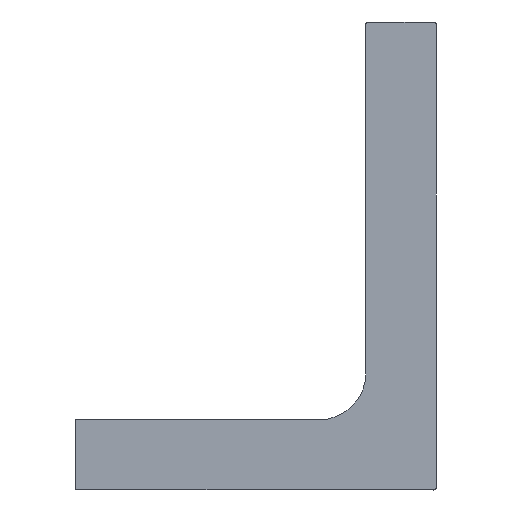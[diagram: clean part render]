
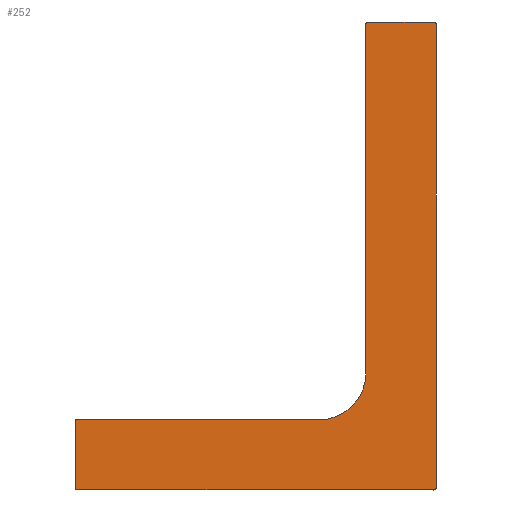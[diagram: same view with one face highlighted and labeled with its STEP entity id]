
A CAD part, left-side view. The second image highlights one B-rep face of the part: STEP entity #252.
In plain terms, the highlighted planar face has unit normal (-1, 0, 0).
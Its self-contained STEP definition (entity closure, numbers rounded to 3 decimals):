
#252=ADVANCED_FACE('Pad.1',(#534),#535,.F.);
#534=FACE_OUTER_BOUND('',#811,.T.);
#535=PLANE('',#812);
#811=EDGE_LOOP('',(#1557,#1558,#1559,#1560,#1561,#1562,#1563,#1564,#1565,#1566,#1567,#1568,#1569));
#812=AXIS2_PLACEMENT_3D('',#1570,#1571,#1572);
#1557=ORIENTED_EDGE('',*,*,#1787,.F.);
#1558=ORIENTED_EDGE('',*,*,#1807,.F.);
#1559=ORIENTED_EDGE('',*,*,#1864,.F.);
#1560=ORIENTED_EDGE('',*,*,#1861,.F.);
#1561=ORIENTED_EDGE('',*,*,#1842,.F.);
#1562=ORIENTED_EDGE('',*,*,#1631,.F.);
#1563=ORIENTED_EDGE('',*,*,#1906,.F.);
#1564=ORIENTED_EDGE('',*,*,#1766,.F.);
#1565=ORIENTED_EDGE('',*,*,#1708,.F.);
#1566=ORIENTED_EDGE('',*,*,#1837,.F.);
#1567=ORIENTED_EDGE('',*,*,#1840,.F.);
#1568=ORIENTED_EDGE('',*,*,#1908,.F.);
#1569=ORIENTED_EDGE('',*,*,#1628,.F.);
#1570=CARTESIAN_POINT('',(0.0,0.0,0.0));
#1571=DIRECTION('',(1.0,0.0,0.0));
#1572=DIRECTION('',(0.0,1.0,0.0));
#1628=EDGE_CURVE('',#1953,#1949,#1955,.T.);
#1631=EDGE_CURVE('',#1957,#1960,#1961,.T.);
#1708=EDGE_CURVE('',#2086,#2089,#2090,.T.);
#1766=EDGE_CURVE('',#2089,#2185,#2186,.T.);
#1787=EDGE_CURVE('',#2215,#1953,#2218,.T.);
#1807=EDGE_CURVE('',#2245,#2215,#2248,.F.);
#1837=EDGE_CURVE('',#2281,#2086,#2283,.T.);
#1840=EDGE_CURVE('',#2285,#2281,#2287,.T.);
#1842=EDGE_CURVE('',#1960,#2289,#2290,.T.);
#1861=EDGE_CURVE('',#2289,#2317,#2318,.T.);
#1864=EDGE_CURVE('',#2317,#2245,#2321,.T.);
#1906=EDGE_CURVE('',#2185,#1957,#2371,.T.);
#1908=EDGE_CURVE('',#1949,#2285,#2373,.T.);
#1949=VERTEX_POINT('',#2420);
#1953=VERTEX_POINT('',#2425);
#1955=CIRCLE('',#2428,0.5);
#1957=VERTEX_POINT('',#2430);
#1960=VERTEX_POINT('',#2434);
#1961=CIRCLE('',#2435,0.5);
#2086=VERTEX_POINT('',#2585);
#2089=VERTEX_POINT('',#2589);
#2090=CIRCLE('',#2590,0.5);
#2185=VERTEX_POINT('',#2704);
#2186=LINE('',#2705,#2706);
#2215=VERTEX_POINT('',#2737);
#2218=LINE('',#2741,#2742);
#2245=VERTEX_POINT('',#2770);
#2248=CIRCLE('',#2774,10.0);
#2281=VERTEX_POINT('',#2817);
#2283=CIRCLE('',#2820,0.5);
#2285=VERTEX_POINT('',#2822);
#2287=LINE('',#2825,#2826);
#2289=VERTEX_POINT('',#2828);
#2290=LINE('',#2829,#2830);
#2317=VERTEX_POINT('',#2858);
#2318=LINE('',#2859,#2860);
#2321=LINE('',#2864,#2865);
#2371=CIRCLE('',#2923,0.5);
#2373=CIRCLE('',#2925,0.5);
#2420=CARTESIAN_POINT('',(0.0,15.011,95.682));
#2425=CARTESIAN_POINT('',(0.0,15.0,95.576));
#2428=AXIS2_PLACEMENT_3D('',#2971,#2972,#2973);
#2430=CARTESIAN_POINT('',(0.0,-0.012,-3.342));
#2434=CARTESIAN_POINT('',(0.0,0.598,-3.829));
#2435=AXIS2_PLACEMENT_3D('',#2975,#2976,#2977);
#2585=CARTESIAN_POINT('',(0.0,-0.016,95.687));
#2589=CARTESIAN_POINT('',(0.0,0.,95.562));
#2590=AXIS2_PLACEMENT_3D('',#3103,#3104,#3105);
#2704=CARTESIAN_POINT('',(0.0,0.0,-3.231));
#2705=CARTESIAN_POINT('',(0.0,0.0,46.166));
#2706=VECTOR('',#3200,1.0);
#2737=CARTESIAN_POINT('',(0.0,15.0,21.171));
#2741=CARTESIAN_POINT('',(0.0,15.0,58.373));
#2742=VECTOR('',#3252,1.0);
#2770=CARTESIAN_POINT('',(0.0,25.,11.171));
#2774=AXIS2_PLACEMENT_3D('',#3303,#3304,#3305);
#2817=CARTESIAN_POINT('',(0.0,0.609,96.171));
#2820=AXIS2_PLACEMENT_3D('',#3329,#3330,#3331);
#2822=CARTESIAN_POINT('',(0.0,14.405,96.171));
#2825=CARTESIAN_POINT('',(0.0,7.507,96.171));
#2826=VECTOR('',#3333,1.0);
#2828=CARTESIAN_POINT('',(0.0,77.0,-3.829));
#2829=CARTESIAN_POINT('',(0.0,38.799,-3.829));
#2830=VECTOR('',#3334,1.0);
#2858=CARTESIAN_POINT('',(0.0,77.0,11.171));
#2859=CARTESIAN_POINT('',(0.0,77.0,3.671));
#2860=VECTOR('',#3384,1.0);
#2864=CARTESIAN_POINT('',(0.0,51.0,11.171));
#2865=VECTOR('',#3386,1.0);
#2923=AXIS2_PLACEMENT_3D('',#3443,#3444,#3445);
#2925=AXIS2_PLACEMENT_3D('',#3446,#3447,#3448);
#2971=CARTESIAN_POINT('',(0.0,14.511,95.682));
#2972=DIRECTION('',(1.0,0.0,0.0));
#2973=DIRECTION('',(0.0,1.0,0.0));
#2975=CARTESIAN_POINT('',(0.0,0.488,-3.342));
#2976=DIRECTION('',(1.0,0.0,0.0));
#2977=DIRECTION('',(0.0,1.0,0.0));
#3103=CARTESIAN_POINT('',(0.0,0.484,95.687));
#3104=DIRECTION('',(1.0,0.0,0.0));
#3105=DIRECTION('',(0.0,1.0,0.0));
#3200=DIRECTION('',(0.0,0.0,-1.0));
#3252=DIRECTION('',(0.0,0.0,1.0));
#3303=CARTESIAN_POINT('',(0.0,25.0,21.171));
#3304=DIRECTION('',(1.0,0.0,0.0));
#3305=DIRECTION('',(0.0,1.0,0.0));
#3329=CARTESIAN_POINT('',(0.0,0.484,95.687));
#3330=DIRECTION('',(1.0,0.0,0.0));
#3331=DIRECTION('',(0.0,1.0,0.0));
#3333=DIRECTION('',(0.0,-1.0,0.0));
#3334=DIRECTION('',(0.0,1.0,0.0));
#3384=DIRECTION('',(0.0,0.0,1.0));
#3386=DIRECTION('',(0.0,-1.0,0.0));
#3443=CARTESIAN_POINT('',(0.0,0.488,-3.342));
#3444=DIRECTION('',(1.0,0.0,0.0));
#3445=DIRECTION('',(0.0,1.0,0.0));
#3446=CARTESIAN_POINT('',(0.0,14.511,95.682));
#3447=DIRECTION('',(1.0,0.0,0.0));
#3448=DIRECTION('',(0.0,1.0,0.0));
